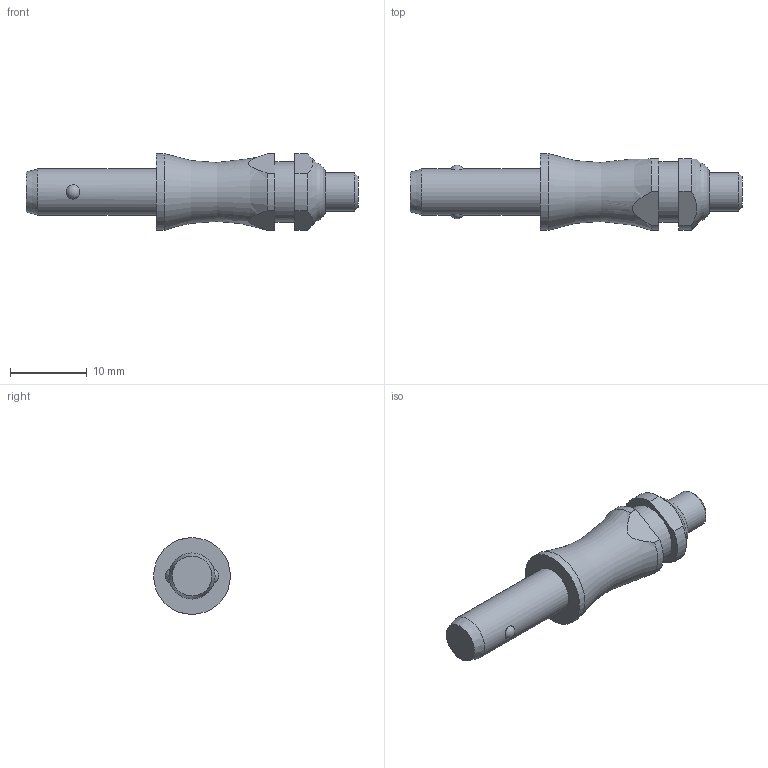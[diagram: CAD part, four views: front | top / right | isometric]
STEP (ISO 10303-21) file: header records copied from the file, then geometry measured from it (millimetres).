
FILE_DESCRIPTION( ( 'STEP AP203' ), '1' );
FILE_NAME( 'C:/Temp/Ganter_Step_05_03_2020/data/3_1/gn113_3/Stainless Steel-Ball lock pin GN 113.3-6-10 (deactivated).stp', '2020-03-12T08:18:14', ( 'License CC BY-ND 4.0' ), ( 'CADENAS' ), ' ', 'PARTsolutions', ' ' );
FILE_SCHEMA( ( 'CONFIG_CONTROL_DESIGN' ) );
Length unit declared in the file: millimetre
Products named in the file (1): _Stainless Steel-Ball lock pin GN 113.3-6-10 (deactivated)
Bounding box: 43.3 x 10 x 10 mm (x, y, z)
Volume: 1817.4 mm3; surface area: 1140.4 mm2
Topology: 1 solids, 1 shells, 29 faces, 61 edges, 40 vertices
Faces by surface type: plane 12, cylinder 10, cone 3, torus 2, sphere 2
Full cylindrical faces by diameter (mm): 5 x1, 6 x1, 7.9 x1, 10 x1
Entity records: 918 total; most frequent: CARTESIAN_POINT 288, DIRECTION 126, ORIENTED_EDGE 100, AXIS2_PLACEMENT_3D 54, EDGE_CURVE 50, EDGE_LOOP 44, VERTEX_POINT 38, FACE_OUTER_BOUND 35
